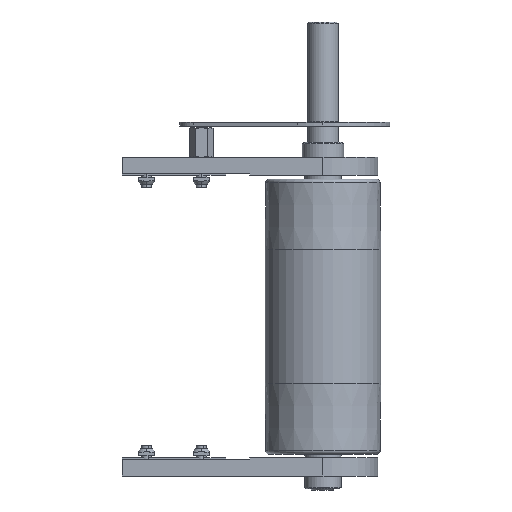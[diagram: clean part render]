
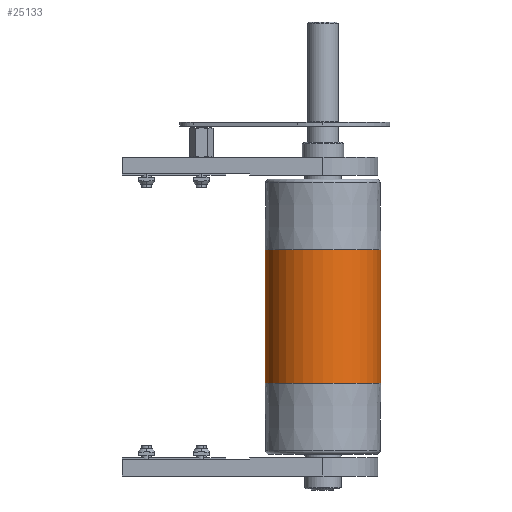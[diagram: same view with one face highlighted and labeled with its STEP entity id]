
A CAD part, front view. The second image highlights one B-rep face of the part: STEP entity #25133.
In plain terms, the highlighted cylindrical face has radius 47.5 mm (diameter 95 mm), a partial arc.
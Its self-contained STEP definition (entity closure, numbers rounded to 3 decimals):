
#864 = AXIS2_PLACEMENT_3D ( 'NONE', #1656, #1657, #1658 ) ;
#866 = AXIS2_PLACEMENT_3D ( 'NONE', #1663, #1664, #1665 ) ;
#1656 = CARTESIAN_POINT ( 'NONE',  ( 0., 0., 55. ) ) ;
#1657 = DIRECTION ( 'NONE',  ( 0., 0., 1. ) ) ;
#1658 = DIRECTION ( 'NONE',  ( 1., 0., 0. ) ) ;
#1663 = CARTESIAN_POINT ( 'NONE',  ( 0., 0., -55. ) ) ;
#1664 = DIRECTION ( 'NONE',  ( 0., 0., 1. ) ) ;
#1665 = DIRECTION ( 'NONE',  ( 1., 0., 0. ) ) ;
#3601 = AXIS2_PLACEMENT_3D ( 'NONE', #14293, #14291, #14289 ) ;
#5507 = FACE_OUTER_BOUND ( 'NONE', #26065, .T. ) ;
#5516 = CYLINDRICAL_SURFACE ( 'NONE', #3601, 47.5 ) ;
#6493 = EDGE_CURVE ( 'NONE', #11226, #11223, #15380, .T. ) ;
#6524 = EDGE_CURVE ( 'NONE', #11225, #11222, #15431, .T. ) ;
#11222 = VERTEX_POINT ( 'NONE', #24622 ) ;
#11223 = VERTEX_POINT ( 'NONE', #24623 ) ;
#11225 = VERTEX_POINT ( 'NONE', #24625 ) ;
#11226 = VERTEX_POINT ( 'NONE', #24626 ) ;
#13029 = CIRCLE ( 'NONE', #864, 47.5 ) ;
#13034 = CIRCLE ( 'NONE', #866, 47.5 ) ;
#13783 = ORIENTED_EDGE ( 'NONE', *, *, #6493, .F. ) ;
#13785 = ORIENTED_EDGE ( 'NONE', *, *, #6524, .T. ) ;
#13889 = ORIENTED_EDGE ( 'NONE', *, *, #23188, .T. ) ;
#13919 = ORIENTED_EDGE ( 'NONE', *, *, #23185, .F. ) ;
#14289 = DIRECTION ( 'NONE',  ( -1., 0., 0. ) ) ;
#14291 = DIRECTION ( 'NONE',  ( 0., 0., -1. ) ) ;
#14293 = CARTESIAN_POINT ( 'NONE',  ( 0., 0., 110. ) ) ;
#15380 = LINE ( 'NONE', #17910, #15384 ) ;
#15384 = VECTOR ( 'NONE', #17908, 1000. ) ;
#15431 = LINE ( 'NONE', #18699, #15435 ) ;
#15435 = VECTOR ( 'NONE', #18697, 1000. ) ;
#17908 = DIRECTION ( 'NONE',  ( 0., 0., -1. ) ) ;
#17910 = CARTESIAN_POINT ( 'NONE',  ( 47.5, 0., 110. ) ) ;
#18697 = DIRECTION ( 'NONE',  ( 0., 0., -1. ) ) ;
#18699 = CARTESIAN_POINT ( 'NONE',  ( -47.5, 0., 110. ) ) ;
#23185 = EDGE_CURVE ( 'NONE', #11225, #11226, #13029, .T. ) ;
#23188 = EDGE_CURVE ( 'NONE', #11222, #11223, #13034, .T. ) ;
#24622 = CARTESIAN_POINT ( 'NONE',  ( -47.5, 0., -55. ) ) ;
#24623 = CARTESIAN_POINT ( 'NONE',  ( 47.5, 0., -55. ) ) ;
#24625 = CARTESIAN_POINT ( 'NONE',  ( -47.5, 0., 55. ) ) ;
#24626 = CARTESIAN_POINT ( 'NONE',  ( 47.5, 0., 55. ) ) ;
#25133 = ADVANCED_FACE ( 'NONE', ( #5507 ), #5516, .T. ) ;
#26065 = EDGE_LOOP ( 'NONE', ( #13783, #13919, #13785, #13889 ) ) ;
